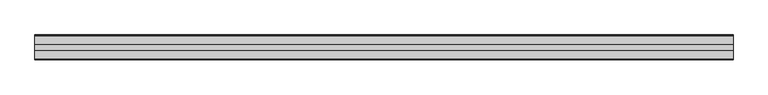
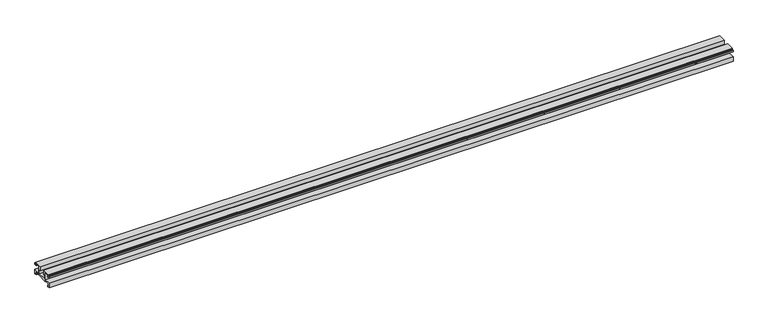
"""IFC4 building model written with IfcOpenShell, lengths in millimetres: proxy geometry, Weiku - Montante - Acoplamento vidro : Weiku - Montante - Acoplamento vidro."""

from ifc_helpers import new_model, si_unit, frame, origin, place, context, project, spatial, polyline, outline, extrude, source, transform, mapped, element, save


def generic_models_3900c1f6(model_context):
    return source(origin(), model_context, "Body", "SweptSolid", [
        extrude(outline(polyline([(-35.405, 5.1494), (-35.405, 6.8004), (-45.741, 6.8004), (-45.741, 2.6094), (-43.8784, 2.6094), (-43.8784, 0.0), (-47.9014508, 0.0), (-47.9014508, 8.79), (-34.946, 8.79), (-34.946, 23.3104), (-43.5397, 23.3104), (-43.5397, 19.204), (-47.9, 19.204), (-47.9, 22.8024), (-46.9264, 22.8024), (-46.9264, 20.3894), (-44.725, 20.3894), (-44.725, 23.9454), (-45.5264504, 23.9454), (-45.5264504, 25.3), (-30.4164, 25.3), (-30.4164, 16.283), (-32.4484, 16.283), (-32.4484, 8.8), (-15.4516, 8.8), (-15.4516, 16.283), (-17.4836, 16.283), (-17.4836, 25.3), (-2.3735496, 25.3), (-2.3735496, 23.9454), (-3.175, 23.9454), (-3.175, 20.3894), (-0.9736, 20.3894), (-0.9736, 22.8024), (0.0, 22.8024), (0.0, 19.204), (-4.3603, 19.204), (-4.3603, 23.3104), (-12.954, 23.3104), (-12.954, 8.79), (0.0014508, 8.79), (0.0014508, 0.0), (-4.0216, 0.0), (-4.0216, 2.6094), (-2.159, 2.6094), (-2.159, 6.8004), (-12.495, 6.8004), (-12.495, 5.1494), (-35.405, 5.1494)])), frame((-668.0666667, 0.0, 0.0), z_axis=(1.0, 0.0, 0.0), x_axis=(0.0, 1.0, 0.0)), (0.0, 0.0, 1.0), 1336.1333333),
    ])


if __name__ == "__main__":
    model = new_model("IFC4")
    model_context = context("Model", 3, world=origin())
    ifc_project = project(units=[si_unit("LENGTHUNIT", "METRE", prefix="MILLI")], contexts=[model_context])
    site = spatial("IfcSite", under=ifc_project)
    building = spatial("IfcBuilding", under=site)
    placement = place(None, origin())
    generic_models_shape = generic_models_3900c1f6(model_context)
    element("IfcBuildingElementProxy", 1, Name="Weiku - Montante - Acoplamento vidro : Weiku - Montante - Acoplamento vidro", ObjectType="Weiku - Montante - Acoplamento vidro : Weiku - Montante - Acoplamento vidro", at=placement, inside=building, context=model_context, shape_type="MappedRepresentation", body=[
        mapped(generic_models_shape, transform((0.0, 0.0, 0.0), x_axis=(1.0, 0.0, 0.0), y_axis=(0.0, 1.0, 0.0), z_axis=(0.0, 0.0, 1.0))),
    ])
    save(model, "model.ifc")
